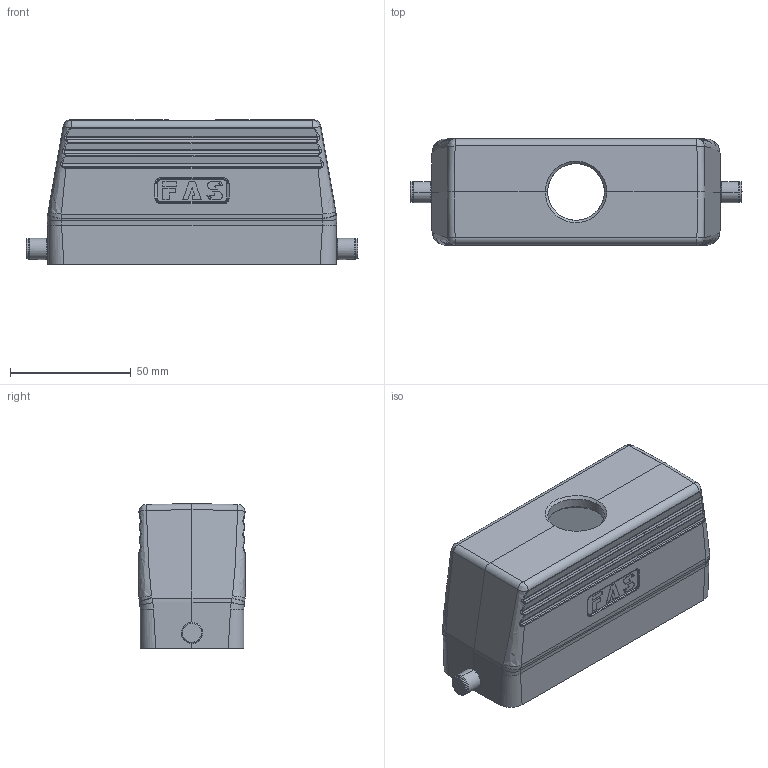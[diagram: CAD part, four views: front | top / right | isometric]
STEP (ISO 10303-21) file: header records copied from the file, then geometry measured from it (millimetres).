
FILE_DESCRIPTION (( 'STEP AP203' ), '1' );
FILE_NAME ('H24B-TG-RO-M25&M32.STEP', '2021-01-18T05:54:56', ( '' ), ( '' ), 'SwSTEP 2.0', 'SolidWorks 2016', '' );
FILE_SCHEMA (( 'CONFIG_CONTROL_DESIGN' ));
Length unit declared in the file: millimetre
Products named in the file (3): H24B-TG-RO; H24B-RO-坶踡璃; H24B-TG-RO-M25&M32
Assembly tree (3 placements, depth 2):
  H24B-TG-RO-M25&M32
    H24B-RO-坶踡璃  x2
    H24B-TG-RO
Bounding box: 137.69 x 44 x 60 mm (x, y, z)
Volume: 90656 mm3; surface area: 43850.6 mm2
Topology: 3 solids, 3 shells, 557 faces, 1319 edges, 800 vertices
Faces by surface type: plane 178, cylinder 173, bspline 148, cone 58
Entity records: 23556 total; most frequent: CARTESIAN_POINT 12387, ORIENTED_EDGE 2514, DIRECTION 1868, EDGE_CURVE 1257, VERTEX_POINT 762, AXIS2_PLACEMENT_3D 650, VECTOR 568, LINE 568
